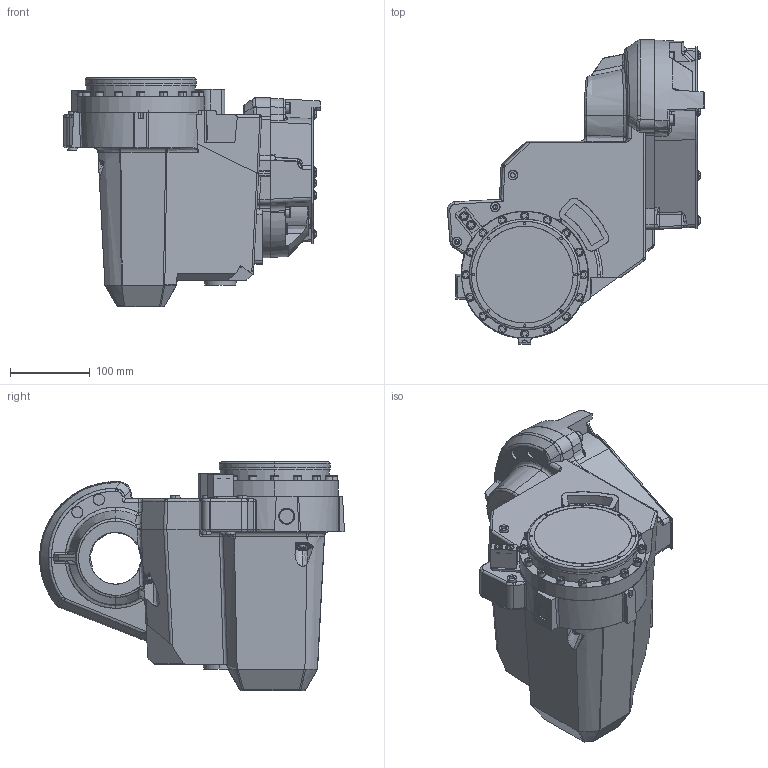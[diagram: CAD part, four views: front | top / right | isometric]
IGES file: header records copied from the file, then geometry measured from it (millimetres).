
Start section: SolidWorks IGES file using analytic representation for surfaces
Global section: file name: C:\2\Original\IRB1520ID_4_150__02_link3_iges_j.IGS; native system: SolidWorks 2010; preprocessor: SolidWorks 2010; author: CNWESUN5; date: 130409.130110; units: millimetre
Bounding box: 323.18 x 382.99 x 288 mm (x, y, z)
Surface area: 426304.9 mm2 (no closed solid volume)
Topology: 0 solids, 0 shells, 1103 faces, 14537 edges, 14516 vertices
Faces by surface type: bspline 653, revolution 450
